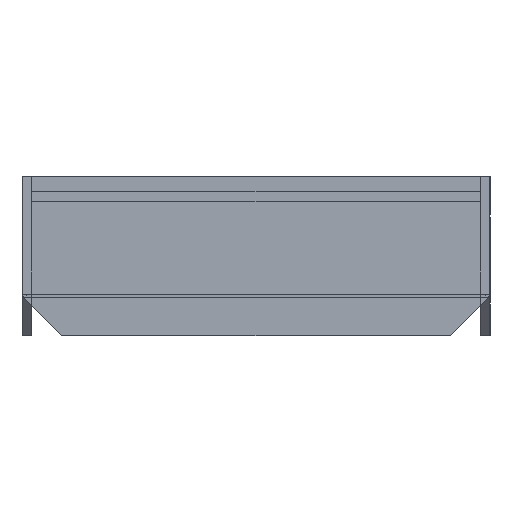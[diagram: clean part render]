
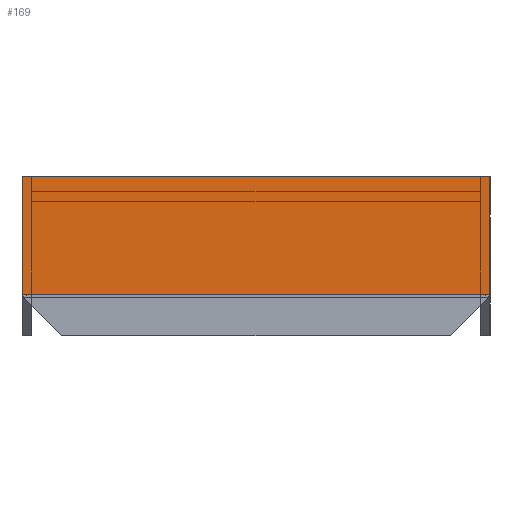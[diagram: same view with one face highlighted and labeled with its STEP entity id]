
A CAD part, left-side view. The second image highlights one B-rep face of the part: STEP entity #169.
In plain terms, the highlighted planar face has unit normal (-1, 0, 0).
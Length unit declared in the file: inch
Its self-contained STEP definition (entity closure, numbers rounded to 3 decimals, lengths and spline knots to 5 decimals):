
#169=ADVANCED_FACE('',(#475),#4819,.T.);
#475=FACE_OUTER_BOUND('',#789,.T.);
#789=EDGE_LOOP('',(#1422,#1423,#1424,#1425));
#1422=ORIENTED_EDGE('',*,*,#2818,.F.);
#1423=ORIENTED_EDGE('',*,*,#2797,.F.);
#1424=ORIENTED_EDGE('',*,*,#2817,.T.);
#1425=ORIENTED_EDGE('',*,*,#2812,.F.);
#2797=EDGE_CURVE('',#4334,#4337,#3589,.T.);
#2812=EDGE_CURVE('',#4346,#4345,#3604,.T.);
#2817=EDGE_CURVE('',#4334,#4345,#3609,.T.);
#2818=EDGE_CURVE('',#4337,#4346,#3610,.T.);
#3589=B_SPLINE_CURVE_WITH_KNOTS('',1,(#6346,#6347),.UNSPECIFIED.,.F.,.F.,
(2,2),(-47.10564,-23.60564),.UNSPECIFIED.);
#3604=B_SPLINE_CURVE_WITH_KNOTS('',1,(#6380,#6381),.UNSPECIFIED.,.F.,.F.,
(2,2),(-23.5,0.),.UNSPECIFIED.);
#3609=B_SPLINE_CURVE_WITH_KNOTS('',1,(#6390,#6391),.UNSPECIFIED.,.F.,.F.,
(2,2),(0.,5.9375),.UNSPECIFIED.);
#3610=B_SPLINE_CURVE_WITH_KNOTS('',1,(#6392,#6393),.UNSPECIFIED.,.F.,.F.,
(2,2),(0.,5.9375),.UNSPECIFIED.);
#4334=VERTEX_POINT('',#6315);
#4337=VERTEX_POINT('',#6318);
#4345=VERTEX_POINT('',#6326);
#4346=VERTEX_POINT('',#6327);
#4819=PLANE('',#5216);
#5216=AXIS2_PLACEMENT_3D('',#6308,#5526,$);
#5526=DIRECTION('',(-1.,0.,0.));
#6308=CARTESIAN_POINT('',(4601.35832,-215.35911,252.96414));
#6315=CARTESIAN_POINT('',(4601.35832,-215.35911,252.96414));
#6318=CARTESIAN_POINT('',(4601.35832,-238.85911,252.96414));
#6326=CARTESIAN_POINT('',(4601.35832,-215.35911,247.02664));
#6327=CARTESIAN_POINT('',(4601.35832,-238.85911,247.02664));
#6346=CARTESIAN_POINT('',(4601.35832,-215.35911,252.96414));
#6347=CARTESIAN_POINT('',(4601.35832,-238.85911,252.96414));
#6380=CARTESIAN_POINT('',(4601.35832,-238.85911,247.02664));
#6381=CARTESIAN_POINT('',(4601.35832,-215.35911,247.02664));
#6390=CARTESIAN_POINT('',(4601.35832,-215.35911,252.96414));
#6391=CARTESIAN_POINT('',(4601.35832,-215.35911,247.02664));
#6392=CARTESIAN_POINT('',(4601.35832,-238.85911,252.96414));
#6393=CARTESIAN_POINT('',(4601.35832,-238.85911,247.02664));
